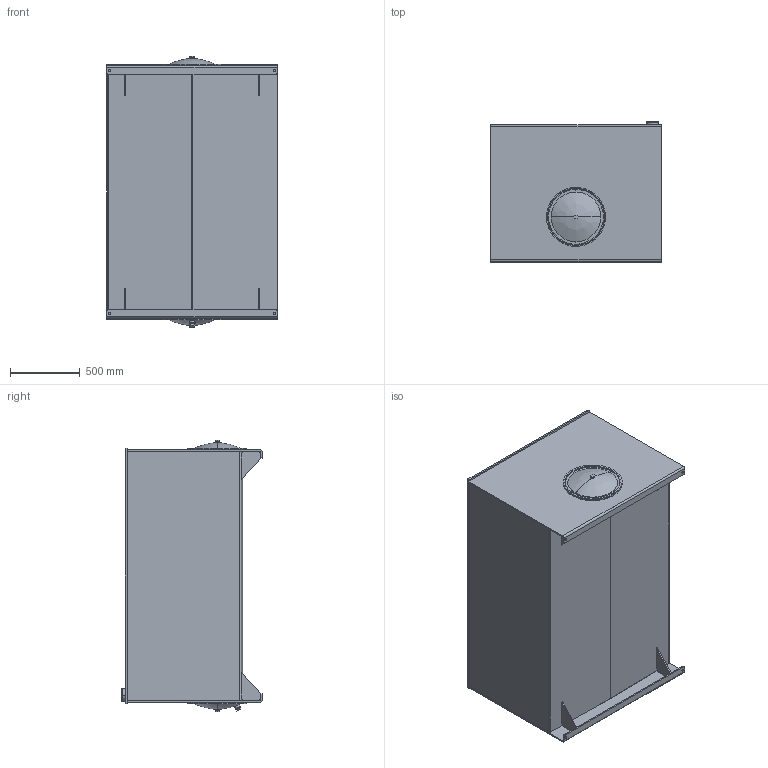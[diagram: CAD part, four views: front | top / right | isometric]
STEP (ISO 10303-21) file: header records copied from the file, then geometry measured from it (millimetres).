
FILE_DESCRIPTION (( 'STEP AP214' ), '1' );
FILE_NAME ('T1-400.STEP', '2021-09-17T16:09:34', ( '' ), ( '' ), 'SwSTEP 2.0', 'SolidWorks 2013', '' );
FILE_SCHEMA (( 'AUTOMOTIVE_DESIGN' ));
Length unit declared in the file: inch
Products named in the file (18): 16.00 END COVER; DRAIN; 16.00 GASKET; T1-400-GST; T1-400-BFL; T1-400-EB; T1-400-BDYA; 0.625 - 11 BAFFLE NUT; T1-400-LD; T1-400; TL-EC-16; T1-400-BDYB; CRUSH WASHER; 0.625 - 11 HEX BOLT; T1-400-EA; FILLER RISER; 16.00 END COVER WITH DRAIN; TL-ECD-16
Assembly tree (24 placements, depth 3):
  T1-400
    T1-400-LD
    T1-400-BDYA
    T1-400-BDYB
    T1-400-EA
    T1-400-EB
    T1-400-BFL
    T1-400-GST  x4
    FILLER RISER
    TL-EC-16
      16.00 END COVER
      16.00 GASKET
      CRUSH WASHER
      0.625 - 11 HEX BOLT
      0.625 - 11 BAFFLE NUT
    TL-ECD-16
      16.00 GASKET
      CRUSH WASHER
      0.625 - 11 HEX BOLT
      0.625 - 11 BAFFLE NUT
      16.00 END COVER WITH DRAIN
      DRAIN
Bounding box: 1219.3 x 1003.17 x 1938.01 mm (x, y, z)
Volume: 83073590 mm3; surface area: 23203686.7 mm2
Topology: 23 solids, 23 shells, 292 faces, 672 edges, 434 vertices
Faces by surface type: plane 165, cylinder 107, cone 10, bspline 8, torus 2
Entity records: 8559 total; most frequent: CARTESIAN_POINT 1464, DIRECTION 1232, ORIENTED_EDGE 1068, EDGE_CURVE 534, AXIS2_PLACEMENT_3D 460, VERTEX_POINT 342, VECTOR 312, LINE 312
